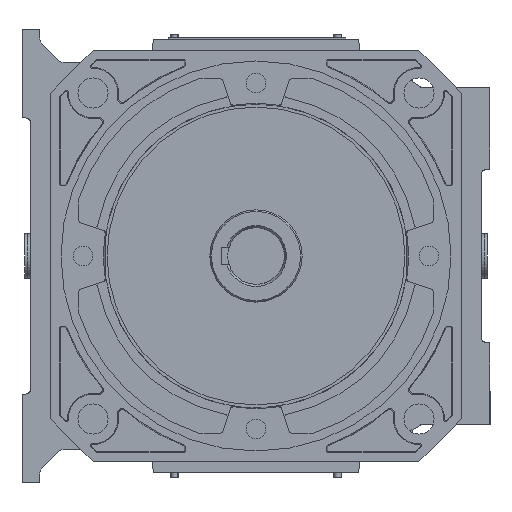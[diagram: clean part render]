
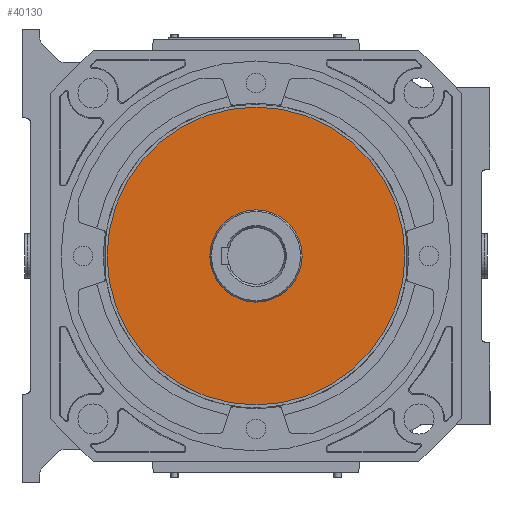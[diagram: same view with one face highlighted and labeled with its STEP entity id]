
A CAD part, left-side view. The second image highlights one B-rep face of the part: STEP entity #40130.
In plain terms, the highlighted planar face has unit normal (-1, 0, 0).
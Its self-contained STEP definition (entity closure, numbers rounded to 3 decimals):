
#1998=FACE_BOUND('',#6779,.T.);
#2234=CIRCLE('',#42480,84.);
#2235=CIRCLE('',#42482,26.);
#4495=FACE_OUTER_BOUND('',#6778,.T.);
#6778=EDGE_LOOP('',(#26581));
#6779=EDGE_LOOP('',(#26582));
#16094=VERTEX_POINT('',#59800);
#16095=VERTEX_POINT('',#59803);
#20264=EDGE_CURVE('',#16094,#16094,#2234,.T.);
#20265=EDGE_CURVE('',#16095,#16095,#2235,.T.);
#26581=ORIENTED_EDGE('',*,*,#20264,.T.);
#26582=ORIENTED_EDGE('',*,*,#20265,.F.);
#39160=PLANE('',#42481);
#40130=ADVANCED_FACE('',(#4495,#1998),#39160,.T.);
#42480=AXIS2_PLACEMENT_3D('',#59801,#47194,#47195);
#42481=AXIS2_PLACEMENT_3D('',#59802,#47196,#47197);
#42482=AXIS2_PLACEMENT_3D('',#59804,#47198,#47199);
#47194=DIRECTION('center_axis',(-1.,0.,0.));
#47195=DIRECTION('ref_axis',(0.,0.,1.));
#47196=DIRECTION('center_axis',(-1.,0.,0.));
#47197=DIRECTION('ref_axis',(0.,0.,1.));
#47198=DIRECTION('center_axis',(-1.,0.,0.));
#47199=DIRECTION('ref_axis',(0.,0.,1.));
#59800=CARTESIAN_POINT('',(-153.,6339.951,-3476.296));
#59801=CARTESIAN_POINT('Origin',(-153.,6255.951,-3476.296));
#59802=CARTESIAN_POINT('Origin',(-153.,6281.951,-3476.296));
#59803=CARTESIAN_POINT('',(-153.,6281.951,-3476.296));
#59804=CARTESIAN_POINT('Origin',(-153.,6255.951,-3476.296));
